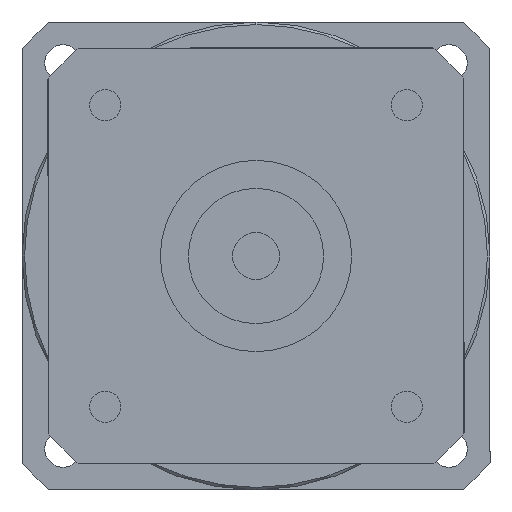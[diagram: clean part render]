
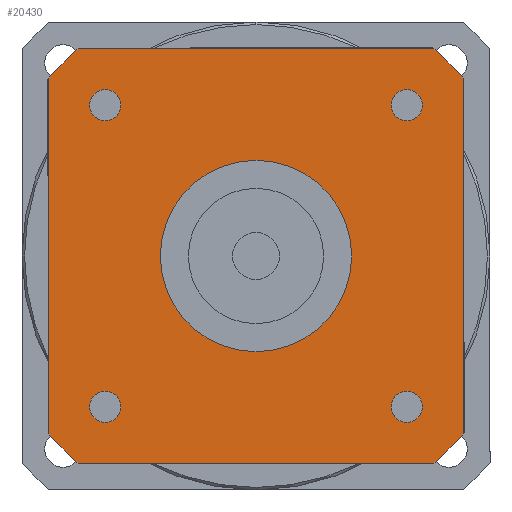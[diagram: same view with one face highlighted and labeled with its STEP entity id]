
A CAD part, left-side view. The second image highlights one B-rep face of the part: STEP entity #20430.
In plain terms, the highlighted planar face has unit normal (-1, 0, 0) as drawn and (0, 0, -1) by its records, which use the part's own axes.
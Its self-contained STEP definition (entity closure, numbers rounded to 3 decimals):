
#15810=CARTESIAN_POINT('',(-34.004,40.,-119.));
#15820=VERTEX_POINT('',#15810);
#15980=CARTESIAN_POINT('',(-40.,34.004,-119.));
#15990=VERTEX_POINT('',#15980);
#16020=CARTESIAN_POINT('',(0.,0.,
-119.));
#16030=DIRECTION('',(0.,0.,1.));
#16040=DIRECTION('',(0.,-1.,0.));
#16050=AXIS2_PLACEMENT_3D('',#16020,#16030,#16040);
#16060=CIRCLE('',#16050,52.5);
#16070=EDGE_CURVE('',#15820,#15990,#16060,.T.);
#18350=CARTESIAN_POINT('',(40.,-34.004,-119.));
#18360=VERTEX_POINT('',#18350);
#18470=CARTESIAN_POINT('',(40.,34.004,-119.));
#18480=VERTEX_POINT('',#18470);
#18510=CARTESIAN_POINT('',(40.,-40.,-119.));
#18520=DIRECTION('',(0.,1.,0.));
#18530=VECTOR('',#18520,1000.);
#18540=LINE('',#18510,#18530);
#18550=EDGE_CURVE('',#18360,#18480,#18540,.T.);
#18690=CARTESIAN_POINT('',(34.004,40.,-119.));
#18700=VERTEX_POINT('',#18690);
#18730=CARTESIAN_POINT('',(0.,0.,
-119.));
#18740=DIRECTION('',(0.,0.,1.));
#18750=DIRECTION('',(0.,-1.,0.));
#18760=AXIS2_PLACEMENT_3D('',#18730,#18740,#18750);
#18770=CIRCLE('',#18760,52.5);
#18780=EDGE_CURVE('',#18480,#18700,#18770,.T.);
#18960=CARTESIAN_POINT('',(40.,40.,-119.));
#18970=DIRECTION('',(-1.,0.,0.));
#18980=VECTOR('',#18970,1000.);
#18990=LINE('',#18960,#18980);
#19000=EDGE_CURVE('',#18700,#15820,#18990,.T.);
#19050=CARTESIAN_POINT('',(-40.,40.,-119.));
#19060=DIRECTION('',(0.,0.,1.));
#19070=DIRECTION('',(-1.,0.,0.));
#19080=AXIS2_PLACEMENT_3D('',#19050,#19060,#19070);
#19090=PLANE('',#19080);
#19100=CARTESIAN_POINT('',(28.998,-28.998,-119.));
#19110=DIRECTION('',(0.,0.,-1.));
#19120=DIRECTION('',(1.,0.,0.));
#19130=AXIS2_PLACEMENT_3D('',#19100,#19110,#19120);
#19140=CIRCLE('',#19130,3.);
#19150=CARTESIAN_POINT('',(31.998,-28.998,-119.));
#19160=VERTEX_POINT('',#19150);
#19170=CARTESIAN_POINT('',(28.998,-31.998,-119.));
#19180=VERTEX_POINT('',#19170);
#19190=EDGE_CURVE('',#19160,#19180,#19140,.T.);
#19200=ORIENTED_EDGE('',*,*,#19190,.F.);
#19210=CARTESIAN_POINT('',(28.998,-25.998,-119.));
#19220=VERTEX_POINT('',#19210);
#19230=EDGE_CURVE('',#19180,#19220,#19140,.T.);
#19240=ORIENTED_EDGE('',*,*,#19230,.F.);
#19250=EDGE_CURVE('',#19220,#19160,#19140,.T.);
#19260=ORIENTED_EDGE('',*,*,#19250,.F.);
#19270=EDGE_LOOP('',(#19260,#19240,#19200));
#19280=FACE_BOUND('',#19270,.T.);
#19290=CARTESIAN_POINT('',(28.998,28.998,-119.));
#19300=DIRECTION('',(0.,0.,-1.));
#19310=DIRECTION('',(0.,1.,0.));
#19320=AXIS2_PLACEMENT_3D('',#19290,#19300,#19310);
#19330=CIRCLE('',#19320,3.);
#19340=CARTESIAN_POINT('',(28.998,31.998,-119.));
#19350=VERTEX_POINT('',#19340);
#19360=CARTESIAN_POINT('',(31.998,28.998,-119.));
#19370=VERTEX_POINT('',#19360);
#19380=EDGE_CURVE('',#19350,#19370,#19330,.T.);
#19390=ORIENTED_EDGE('',*,*,#19380,.F.);
#19400=CARTESIAN_POINT('',(25.998,28.998,-119.));
#19410=VERTEX_POINT('',#19400);
#19420=EDGE_CURVE('',#19370,#19410,#19330,.T.);
#19430=ORIENTED_EDGE('',*,*,#19420,.F.);
#19440=EDGE_CURVE('',#19410,#19350,#19330,.T.);
#19450=ORIENTED_EDGE('',*,*,#19440,.F.);
#19460=EDGE_LOOP('',(#19450,#19430,#19390));
#19470=FACE_BOUND('',#19460,.T.);
#19480=CARTESIAN_POINT('',(-28.998,28.998,-119.));
#19490=DIRECTION('',(0.,0.,-1.));
#19500=DIRECTION('',(-1.,0.,0.));
#19510=AXIS2_PLACEMENT_3D('',#19480,#19490,#19500);
#19520=CIRCLE('',#19510,3.);
#19530=CARTESIAN_POINT('',(-31.998,28.998,-119.));
#19540=VERTEX_POINT('',#19530);
#19550=CARTESIAN_POINT('',(-28.998,31.998,-119.));
#19560=VERTEX_POINT('',#19550);
#19570=EDGE_CURVE('',#19540,#19560,#19520,.T.);
#19580=ORIENTED_EDGE('',*,*,#19570,.F.);
#19590=CARTESIAN_POINT('',(-28.998,25.998,-119.));
#19600=VERTEX_POINT('',#19590);
#19610=EDGE_CURVE('',#19560,#19600,#19520,.T.);
#19620=ORIENTED_EDGE('',*,*,#19610,.F.);
#19630=EDGE_CURVE('',#19600,#19540,#19520,.T.);
#19640=ORIENTED_EDGE('',*,*,#19630,.F.);
#19650=EDGE_LOOP('',(#19640,#19620,#19580));
#19660=FACE_BOUND('',#19650,.T.);
#19670=CARTESIAN_POINT('',(-28.998,-28.998,-119.));
#19680=DIRECTION('',(0.,0.,-1.));
#19690=DIRECTION('',(0.,-1.,0.));
#19700=AXIS2_PLACEMENT_3D('',#19670,#19680,#19690);
#19710=CIRCLE('',#19700,3.);
#19720=CARTESIAN_POINT('',(-28.998,-31.998,-119.));
#19730=VERTEX_POINT('',#19720);
#19740=CARTESIAN_POINT('',(-31.998,-28.998,-119.));
#19750=VERTEX_POINT('',#19740);
#19760=EDGE_CURVE('',#19730,#19750,#19710,.T.);
#19770=ORIENTED_EDGE('',*,*,#19760,.F.);
#19780=CARTESIAN_POINT('',(-25.998,-28.998,-119.));
#19790=VERTEX_POINT('',#19780);
#19800=EDGE_CURVE('',#19750,#19790,#19710,.T.);
#19810=ORIENTED_EDGE('',*,*,#19800,.F.);
#19820=EDGE_CURVE('',#19790,#19730,#19710,.T.);
#19830=ORIENTED_EDGE('',*,*,#19820,.F.);
#19840=EDGE_LOOP('',(#19830,#19810,#19770));
#19850=FACE_BOUND('',#19840,.T.);
#19860=CARTESIAN_POINT('',(0.,0.,
-119.));
#19870=DIRECTION('',(0.,0.,1.));
#19880=DIRECTION('',(0.,-1.,0.));
#19890=AXIS2_PLACEMENT_3D('',#19860,#19870,#19880);
#19900=CIRCLE('',#19890,52.5);
#19910=CARTESIAN_POINT('',(-40.,-34.004,-119.));
#19920=VERTEX_POINT('',#19910);
#19930=CARTESIAN_POINT('',(-34.004,-40.,-119.));
#19940=VERTEX_POINT('',#19930);
#19950=EDGE_CURVE('',#19920,#19940,#19900,.T.);
#19960=ORIENTED_EDGE('',*,*,#19950,.F.);
#19970=CARTESIAN_POINT('',(-40.,-40.,-119.));
#19980=DIRECTION('',(1.,0.,0.));
#19990=VECTOR('',#19980,1000.);
#20000=LINE('',#19970,#19990);
#20010=CARTESIAN_POINT('',(34.004,-40.,-119.));
#20020=VERTEX_POINT('',#20010);
#20030=EDGE_CURVE('',#19940,#20020,#20000,.T.);
#20040=ORIENTED_EDGE('',*,*,#20030,.F.);
#20050=CARTESIAN_POINT('',(0.,0.,
-119.));
#20060=DIRECTION('',(0.,0.,1.));
#20070=DIRECTION('',(0.,-1.,0.));
#20080=AXIS2_PLACEMENT_3D('',#20050,#20060,#20070);
#20090=CIRCLE('',#20080,52.5);
#20100=EDGE_CURVE('',#20020,#18360,#20090,.T.);
#20110=ORIENTED_EDGE('',*,*,#20100,.F.);
#20120=ORIENTED_EDGE('',*,*,#18550,.F.);
#20130=ORIENTED_EDGE('',*,*,#18780,.F.);
#20140=ORIENTED_EDGE('',*,*,#19000,.F.);
#20150=ORIENTED_EDGE('',*,*,#16070,.F.);
#20160=CARTESIAN_POINT('',(-40.,40.,-119.));
#20170=DIRECTION('',(0.,-1.,0.));
#20180=VECTOR('',#20170,1000.);
#20190=LINE('',#20160,#20180);
#20200=EDGE_CURVE('',#15990,#19920,#20190,.T.);
#20210=ORIENTED_EDGE('',*,*,#20200,.F.);
#20220=EDGE_LOOP('',(#20210,#20150,#20140,#20130,#20120,#20110,#20040,
#19960));
#20230=FACE_OUTER_BOUND('',#20220,.T.);
#20240=CARTESIAN_POINT('',(0.,0.,
-119.));
#20250=DIRECTION('',(0.,0.,1.));
#20260=DIRECTION('',(0.,-1.,0.));
#20270=AXIS2_PLACEMENT_3D('',#20240,#20250,#20260);
#20280=CIRCLE('',#20270,18.4);
#20290=CARTESIAN_POINT('',(18.4,0.,-119.));
#20300=VERTEX_POINT('',#20290);
#20310=CARTESIAN_POINT('',(-18.4,0.,-119.));
#20320=VERTEX_POINT('',#20310);
#20330=EDGE_CURVE('',#20300,#20320,#20280,.T.);
#20340=ORIENTED_EDGE('',*,*,#20330,.T.);
#20350=CARTESIAN_POINT('',(0.,-18.4,-119.));
#20360=VERTEX_POINT('',#20350);
#20370=EDGE_CURVE('',#20360,#20300,#20280,.T.);
#20380=ORIENTED_EDGE('',*,*,#20370,.T.);
#20390=EDGE_CURVE('',#20320,#20360,#20280,.T.);
#20400=ORIENTED_EDGE('',*,*,#20390,.T.);
#20410=EDGE_LOOP('',(#20400,#20380,#20340));
#20420=FACE_BOUND('',#20410,.T.);
#20430=ADVANCED_FACE('',(#19280,#19470,#19660,#19850,#20230,#20420),
#19090,.F.);
